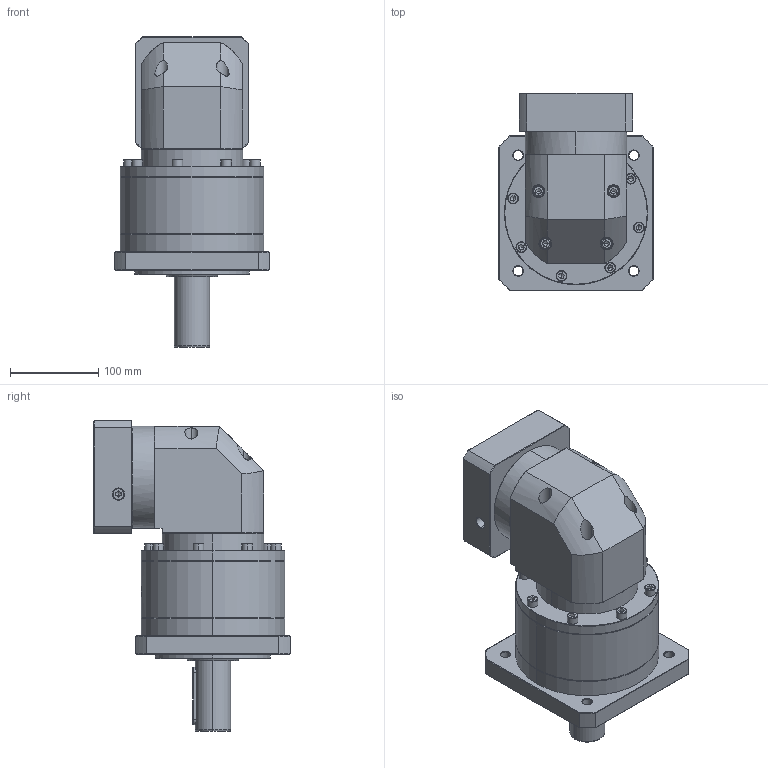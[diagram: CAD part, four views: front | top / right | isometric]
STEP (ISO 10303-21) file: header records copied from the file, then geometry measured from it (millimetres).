
FILE_DESCRIPTION (( 'STEP AP214' ), '1' );
FILE_NAME ('ZFR160A-D40-L2-P2-19-110-145-M8.step', '2023-09-03T09:39:30', ( '' ), ( '' ), 'SwSTEP 2.0', 'SolidWorks 2016', '' );
FILE_SCHEMA (( 'AUTOMOTIVE_DESIGN' ));
Length unit declared in the file: millimetre
Products named in the file (1): ZFR160A-D40-L2-P2-19-110-145-M8
Bounding box: 175 x 222.4 x 351.2 mm (x, y, z)
Volume: 5109731.8 mm3; surface area: 351356.8 mm2
Topology: 6 solids, 6 shells, 2472 faces, 6473 edges, 4128 vertices
Faces by surface type: plane 1146, cylinder 499, bspline 411, cone 370, torus 46
Entity records: 133069 total; most frequent: CARTESIAN_POINT 50394, ORIENTED_EDGE 12838, DIRECTION 9767, EDGE_CURVE 6419, VERTEX_POINT 4128, VECTOR 3441, LINE 3441, AXIS2_PLACEMENT_3D 3163
